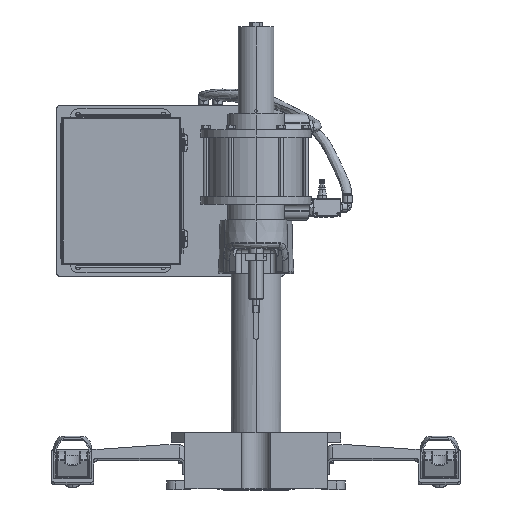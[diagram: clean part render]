
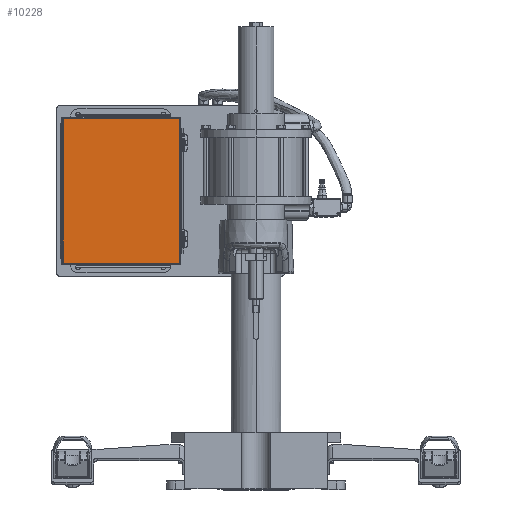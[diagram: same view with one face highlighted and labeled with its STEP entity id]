
A CAD part, top view. The second image highlights one B-rep face of the part: STEP entity #10228.
In plain terms, the highlighted planar face has unit normal (0, 0, 1) as drawn and (0.924, 0.382, 0) by its records, which use the part's own axes.
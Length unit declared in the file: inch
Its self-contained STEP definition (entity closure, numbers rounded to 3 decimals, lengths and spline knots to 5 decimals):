
#2209 = DIRECTION ( 'NONE',  ( 0., 0., 1. ) ) ;
#10228 = ADVANCED_FACE ( 'NONE', ( #195668 ), #131443, .T. ) ;
#28482 = LINE ( 'NONE', #175577, #71540 ) ;
#32435 = VERTEX_POINT ( 'NONE', #185352 ) ;
#34373 = CARTESIAN_POINT ( 'NONE',  ( -16.97563, 17.82642, 8.6227 ) ) ;
#40687 = EDGE_CURVE ( 'NONE', #165423, #32435, #119809, .T. ) ;
#41391 = EDGE_LOOP ( 'NONE', ( #52182, #98771, #142246, #141571 ) ) ;
#52182 = ORIENTED_EDGE ( 'NONE', *, *, #40687, .T. ) ;
#58291 = AXIS2_PLACEMENT_3D ( 'NONE', #84750, #69398, #68100 ) ;
#68100 = DIRECTION ( 'NONE',  ( -0.382, 0.924, 0. ) ) ;
#69398 = DIRECTION ( 'NONE',  ( 0.924, 0.382, 0. ) ) ;
#71540 = VECTOR ( 'NONE', #115606, 39.37008 ) ;
#72449 = EDGE_CURVE ( 'NONE', #32435, #83249, #175729, .T. ) ;
#83249 = VERTEX_POINT ( 'NONE', #191862 ) ;
#84750 = CARTESIAN_POINT ( 'NONE',  ( -13.06304, 8.35256, 8.6227 ) ) ;
#91037 = VECTOR ( 'NONE', #2209, 39.37008 ) ;
#97661 = LINE ( 'NONE', #167676, #173960 ) ;
#98771 = ORIENTED_EDGE ( 'NONE', *, *, #72449, .T. ) ;
#105728 = CARTESIAN_POINT ( 'NONE',  ( -13.08213, 8.39877, 0.3727 ) ) ;
#115606 = DIRECTION ( 'NONE',  ( 0., 0., -1. ) ) ;
#119809 = LINE ( 'NONE', #34373, #91037 ) ;
#131443 = PLANE ( 'NONE',  #58291 ) ;
#138914 = CARTESIAN_POINT ( 'NONE',  ( -13.06304, 8.35256, 8.5727 ) ) ;
#141571 = ORIENTED_EDGE ( 'NONE', *, *, #194694, .T. ) ;
#142246 = ORIENTED_EDGE ( 'NONE', *, *, #177103, .T. ) ;
#147071 = VECTOR ( 'NONE', #153485, 39.37008 ) ;
#153485 = DIRECTION ( 'NONE',  ( 0.382, -0.924, 0. ) ) ;
#165423 = VERTEX_POINT ( 'NONE', #169712 ) ;
#167676 = CARTESIAN_POINT ( 'NONE',  ( -13.06304, 8.35256, 0.3727 ) ) ;
#169712 = CARTESIAN_POINT ( 'NONE',  ( -16.97563, 17.82642, 0.3727 ) ) ;
#173960 = VECTOR ( 'NONE', #197758, 39.37008 ) ;
#175577 = CARTESIAN_POINT ( 'NONE',  ( -13.08213, 8.39877, 8.6227 ) ) ;
#175729 = LINE ( 'NONE', #138914, #147071 ) ;
#177103 = EDGE_CURVE ( 'NONE', #83249, #190569, #28482, .T. ) ;
#185352 = CARTESIAN_POINT ( 'NONE',  ( -16.97563, 17.82642, 8.5727 ) ) ;
#190569 = VERTEX_POINT ( 'NONE', #105728 ) ;
#191862 = CARTESIAN_POINT ( 'NONE',  ( -13.08213, 8.39877, 8.5727 ) ) ;
#194694 = EDGE_CURVE ( 'NONE', #190569, #165423, #97661, .T. ) ;
#195668 = FACE_OUTER_BOUND ( 'NONE', #41391, .T. ) ;
#197758 = DIRECTION ( 'NONE',  ( -0.382, 0.924, 0. ) ) ;
